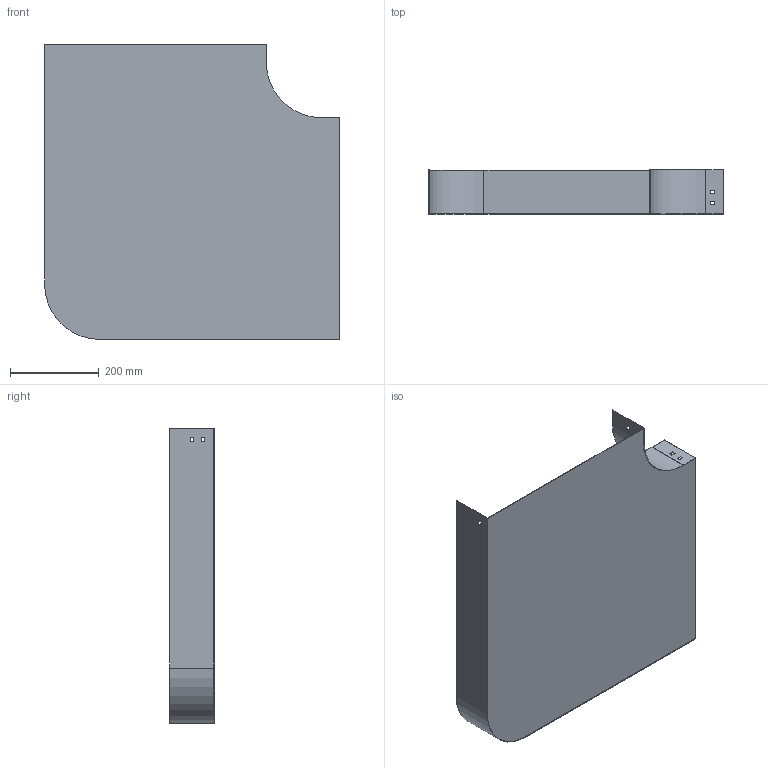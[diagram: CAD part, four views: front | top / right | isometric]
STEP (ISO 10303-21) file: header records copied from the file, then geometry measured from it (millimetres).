
FILE_DESCRIPTION (( 'STEP AP214' ), '1' );
FILE_NAME ('P9_501.step', '2025-07-16T09:21:11', ( '' ), ( '' ), 'SwSTEP 2.0', 'SolidWorks 2023', '' );
FILE_SCHEMA (( 'AUTOMOTIVE_DESIGN' ));
Length unit declared in the file: millimetre
Products named in the file (1): P9_501
Bounding box: 665 x 100 x 665 mm (x, y, z)
Volume: 851071.3 mm3; surface area: 1139589.8 mm2
Topology: 1 solids, 1 shells, 50 faces, 144 edges, 96 vertices
Faces by surface type: plane 46, cylinder 4
Entity records: 1671 total; most frequent: CARTESIAN_POINT 291, ORIENTED_EDGE 288, DIRECTION 254, EDGE_CURVE 144, VECTOR 136, LINE 136, VERTEX_POINT 96, EDGE_LOOP 66
